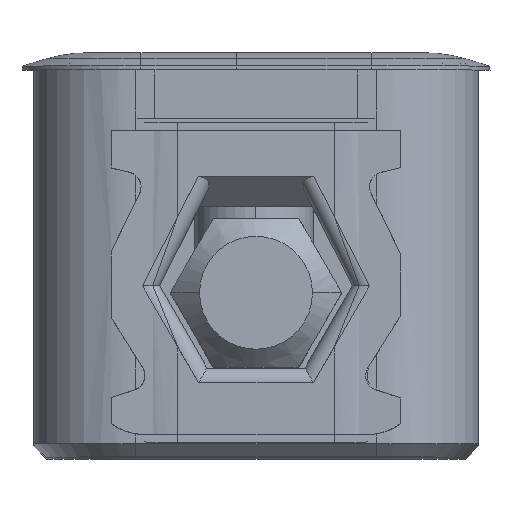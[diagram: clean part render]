
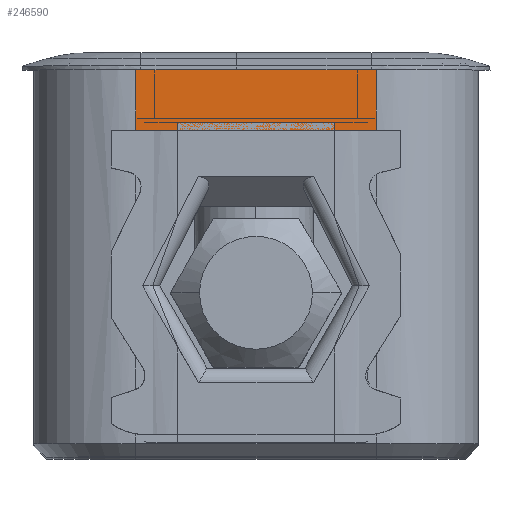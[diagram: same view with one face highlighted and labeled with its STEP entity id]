
A CAD part, top view. The second image highlights one B-rep face of the part: STEP entity #246590.
In plain terms, the highlighted planar face has unit normal (0, 0, 1).
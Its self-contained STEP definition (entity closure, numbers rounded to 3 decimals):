
#212530=CARTESIAN_POINT('',(-15.1,19.558,
-33.1));
#212540=DIRECTION('',(0.,-1.,0.));
#212550=VECTOR('',#212540,1.);
#212560=LINE('',#212530,#212550);
#213820=CARTESIAN_POINT('',(-15.1,-10.943,
-33.1));
#213830=VERTEX_POINT('',#213820);
#213860=CARTESIAN_POINT('',(-15.1,-15.443,
-33.1));
#213870=VERTEX_POINT('',#213860);
#213880=EDGE_CURVE('',#213830,#213870,#212560,.T.);
#222870=CARTESIAN_POINT('',(1.1,-15.443,
-33.1));
#222880=VERTEX_POINT('',#222870);
#222910=CARTESIAN_POINT('',(1.1,19.558,
-33.1));
#222920=DIRECTION('',(0.,-1.,0.));
#222930=VECTOR('',#222920,1.);
#222940=LINE('',#222910,#222930);
#222950=CARTESIAN_POINT('',(1.1,-10.943,
-33.1));
#222960=VERTEX_POINT('',#222950);
#222970=EDGE_CURVE('',#222960,#222880,#222940,.T.);
#230690=CARTESIAN_POINT('',(-7.,-15.443,
-33.1));
#230700=DIRECTION('',(-1.,0.,0.));
#230710=VECTOR('',#230700,1.);
#230720=LINE('',#230690,#230710);
#230730=EDGE_CURVE('',#222880,#213870,#230720,.T.);
#234140=CARTESIAN_POINT('',(-18.323,-1.864,
-33.1));
#234150=DIRECTION('',(0.,0.,-1.));
#234160=DIRECTION('',(1.,0.,0.));
#234170=AXIS2_PLACEMENT_3D('',#234140,#234150,#234160);
#234180=PLANE('',#234170);
#246480=ORIENTED_EDGE('',*,*,#222970,.F.);
#246490=ORIENTED_EDGE('',*,*,#230730,.F.);
#246500=ORIENTED_EDGE('',*,*,#213880,.T.);
#246510=CARTESIAN_POINT('',(-18.323,-10.943,
-33.1));
#246520=DIRECTION('',(-1.,0.,0.));
#246530=VECTOR('',#246520,1.);
#246540=LINE('',#246510,#246530);
#246550=EDGE_CURVE('',#222960,#213830,#246540,.T.);
#246560=ORIENTED_EDGE('',*,*,#246550,.T.);
#246570=EDGE_LOOP('',(#246560,#246500,#246490,#246480));
#246580=FACE_OUTER_BOUND('',#246570,.T.);
#246590=ADVANCED_FACE('',(#246580),#234180,.F.);
